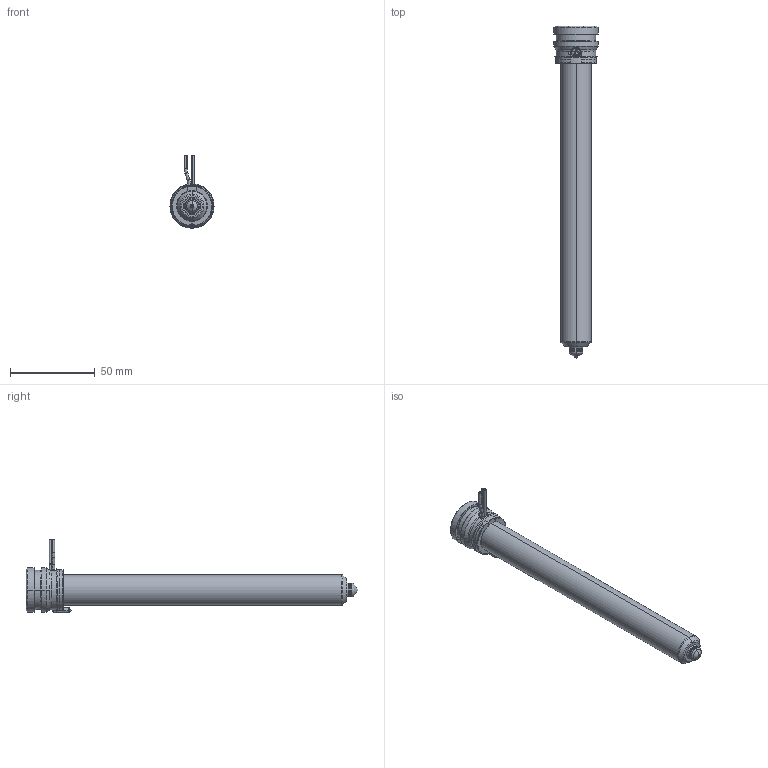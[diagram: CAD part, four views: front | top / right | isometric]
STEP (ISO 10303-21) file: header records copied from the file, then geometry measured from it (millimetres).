
FILE_DESCRIPTION((''),'2;1');
FILE_NAME('MPN-08-24-TX8-176-A','2026-02-05T11:55:22',('UPTIO'),('Thermoplay S.p.A.'),'CREO PARAMETRIC BY PTC INC, 2023494','CREO PARAMETRIC BY PTC INC, 2023494','');
FILE_SCHEMA(('CONFIG_CONTROL_DESIGN','SHAPE_APPEARANCE_LAYERS_GROUPS'));
Length unit declared in the file: millimetre
Products named in the file (1): MPN-08-24-TX8-176-A
Bounding box: 26 x 195.5 x 43.5 mm (x, y, z)
Volume: 36344 mm3; surface area: 47601.2 mm2
Topology: 2 solids, 3 shells, 548 faces, 1458 edges, 904 vertices
Faces by surface type: cylinder 180, plane 144, bspline 82, torus 64, cone 60, sphere 12, extrusion 6
Entity records: 29960 total; most frequent: CARTESIAN_POINT 13614, ORIENTED_EDGE 2896, DIRECTION 2574, EDGE_CURVE 1448, AXIS2_PLACEMENT_3D 1006, VERTEX_POINT 904, EDGE_LOOP 576, VECTOR 562
